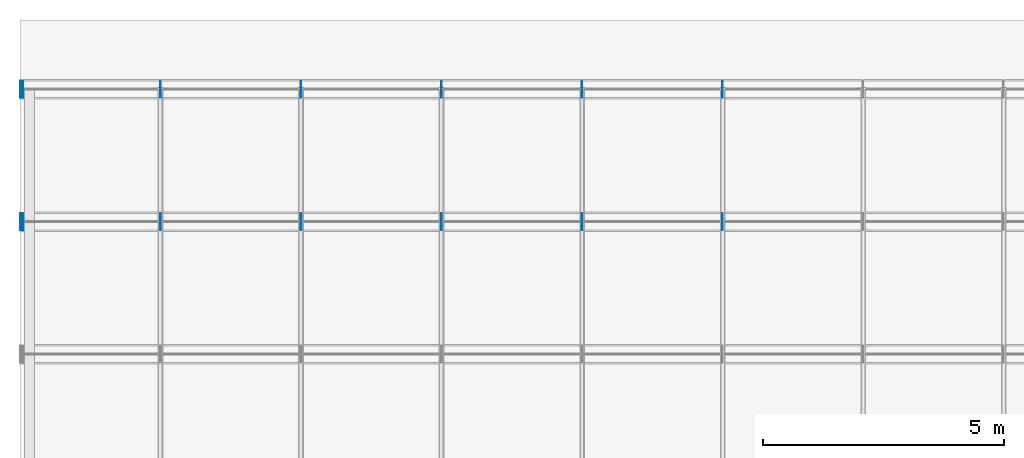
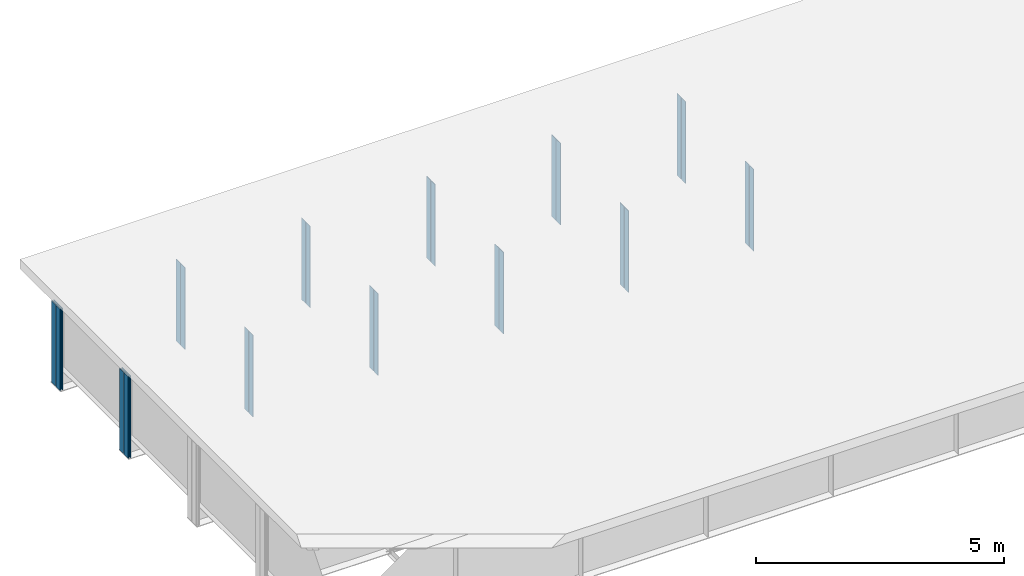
# One storey, part 4 of 17: 28 plates.
"""IFC4 building model written with IfcOpenShell, lengths in metres."""

from ifc_helpers import new_model, si_unit, frame, origin, origin_with_axes, origin_2d_with_axis, place, context, subcontext, project, spatial, rectangle, extrude, element, save


model = new_model("IFC4")

# Units and contexts
model_context = context("Model", 3, precision=1e-05, world=origin())
body_context = subcontext(model_context, "Body", "Model", "MODEL_VIEW")
ifc_project = project(units=[si_unit("LENGTHUNIT", "METRE"), si_unit("AREAUNIT", "SQUARE_METRE"), si_unit("VOLUMEUNIT", "CUBIC_METRE"), si_unit("PLANEANGLEUNIT", "RADIAN")], contexts=[model_context])

# Site, building, storey
site_placement = place(None, origin_with_axes())
site = spatial("IfcSite", under=ifc_project, at=site_placement, Name="Default Site")
building_placement = place(site_placement, origin_with_axes())
building = spatial("IfcBuilding", under=site, at=building_placement, Name="Bridge Structure")
storey_placement = place(building_placement, origin_with_axes())
storey = spatial("IfcBuildingStorey", under=building, at=storey_placement, Name="Superstructure")

# Plates
for number, where, z_axis, x_axis, name in (
    (1, (2.916, 2.841, -1.007), (0.0, 0.0, 1.0), (1.0, 0.0, 0.0), "Intermediate Stiffener 4"),
    (2, (2.916, 2.6590000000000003, -1.007), (0.0, 0.0, 1.0), (1.0, 0.0, 0.0), "Intermediate Stiffener 4"),
    (3, (5.832, 2.841, -1.007), (0.0, 0.0, 1.0), (1.0, 0.0, 0.0), "Intermediate Stiffener 4"),
    (4, (5.832, 2.6590000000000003, -1.007), (0.0, 0.0, 1.0), (1.0, 0.0, 0.0), "Intermediate Stiffener 4"),
    (5, (8.748, 2.841, -1.007), (0.0, 0.0, 1.0), (1.0, 0.0, 0.0), "Intermediate Stiffener 4"),
    (6, (8.748, 2.6590000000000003, -1.007), (0.0, 0.0, 1.0), (1.0, 0.0, 0.0), "Intermediate Stiffener 4"),
    (7, (11.664, 2.841, -1.007), (0.0, 0.0, 1.0), (1.0, 0.0, 0.0), "Intermediate Stiffener 4"),
    (8, (11.664, 2.6590000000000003, -1.007), (0.0, 0.0, 1.0), (1.0, 0.0, 0.0), "Intermediate Stiffener 4"),
    (9, (14.58, 2.841, -1.007), (0.0, 0.0, 1.0), (1.0, 0.0, 0.0), "Intermediate Stiffener 4"),
    (10, (14.58, 2.6590000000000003, -1.007), (0.0, 0.0, 1.0), (1.0, 0.0, 0.0), "Intermediate Stiffener 4"),
):
    element("IfcPlate", number, at=place(storey_placement, frame(where, z_axis=z_axis, x_axis=x_axis)), inside=storey, Name=name, context=body_context, shape_type="SweptSolid", body=[
        extrude(rectangle(XDim=0.012, YDim=0.168, at=origin_2d_with_axis()), origin_with_axes(), (0.0, 0.0, 1.0), 2.014),
    ])
for number, where, z_axis, x_axis, name in (
    (11, (0.01, 2.841, -1.007), (0.0, 0.0, 1.0), (1.0, 0.0, 0.0), "End Stiffener 4"),
    (12, (0.01, 2.6590000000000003, -1.007), (0.0, 0.0, 1.0), (1.0, 0.0, 0.0), "End Stiffener 4"),
    (13, (0.06, 2.841, -1.007), (0.0, 0.0, 1.0), (1.0, 0.0, 0.0), "End Stiffener 4"),
    (14, (0.06, 2.6590000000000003, -1.007), (0.0, 0.0, 1.0), (1.0, 0.0, 0.0), "End Stiffener 4"),
):
    element("IfcPlate", number, at=place(storey_placement, frame(where, z_axis=z_axis, x_axis=x_axis)), inside=storey, Name=name, context=body_context, shape_type="SweptSolid", body=[
        extrude(rectangle(XDim=0.02, YDim=0.168, at=origin_2d_with_axis()), origin_with_axes(), (0.0, 0.0, 1.0), 2.014),
    ])
for number, where, z_axis, x_axis, name in (
    (15, (2.916, 5.591, -1.007), (0.0, 0.0, 1.0), (1.0, 0.0, 0.0), "Intermediate Stiffener 5"),
    (16, (2.916, 5.409, -1.007), (0.0, 0.0, 1.0), (1.0, 0.0, 0.0), "Intermediate Stiffener 5"),
    (17, (5.832, 5.591, -1.007), (0.0, 0.0, 1.0), (1.0, 0.0, 0.0), "Intermediate Stiffener 5"),
    (18, (5.832, 5.409, -1.007), (0.0, 0.0, 1.0), (1.0, 0.0, 0.0), "Intermediate Stiffener 5"),
    (19, (8.748, 5.591, -1.007), (0.0, 0.0, 1.0), (1.0, 0.0, 0.0), "Intermediate Stiffener 5"),
    (20, (8.748, 5.409, -1.007), (0.0, 0.0, 1.0), (1.0, 0.0, 0.0), "Intermediate Stiffener 5"),
    (21, (11.664, 5.591, -1.007), (0.0, 0.0, 1.0), (1.0, 0.0, 0.0), "Intermediate Stiffener 5"),
    (22, (11.664, 5.409, -1.007), (0.0, 0.0, 1.0), (1.0, 0.0, 0.0), "Intermediate Stiffener 5"),
    (23, (14.58, 5.591, -1.007), (0.0, 0.0, 1.0), (1.0, 0.0, 0.0), "Intermediate Stiffener 5"),
    (24, (14.58, 5.409, -1.007), (0.0, 0.0, 1.0), (1.0, 0.0, 0.0), "Intermediate Stiffener 5"),
):
    element("IfcPlate", number, at=place(storey_placement, frame(where, z_axis=z_axis, x_axis=x_axis)), inside=storey, Name=name, context=body_context, shape_type="SweptSolid", body=[
        extrude(rectangle(XDim=0.012, YDim=0.168, at=origin_2d_with_axis()), origin_with_axes(), (0.0, 0.0, 1.0), 2.014),
    ])
for number, where, z_axis, x_axis, name in (
    (25, (0.01, 5.591, -1.007), (0.0, 0.0, 1.0), (1.0, 0.0, 0.0), "End Stiffener 5"),
    (26, (0.01, 5.409, -1.007), (0.0, 0.0, 1.0), (1.0, 0.0, 0.0), "End Stiffener 5"),
    (27, (0.06, 5.591, -1.007), (0.0, 0.0, 1.0), (1.0, 0.0, 0.0), "End Stiffener 5"),
    (28, (0.06, 5.409, -1.007), (0.0, 0.0, 1.0), (1.0, 0.0, 0.0), "End Stiffener 5"),
):
    element("IfcPlate", number, at=place(storey_placement, frame(where, z_axis=z_axis, x_axis=x_axis)), inside=storey, Name=name, context=body_context, shape_type="SweptSolid", body=[
        extrude(rectangle(XDim=0.02, YDim=0.168, at=origin_2d_with_axis()), origin_with_axes(), (0.0, 0.0, 1.0), 2.014),
    ])

save(model, "model.ifc")
